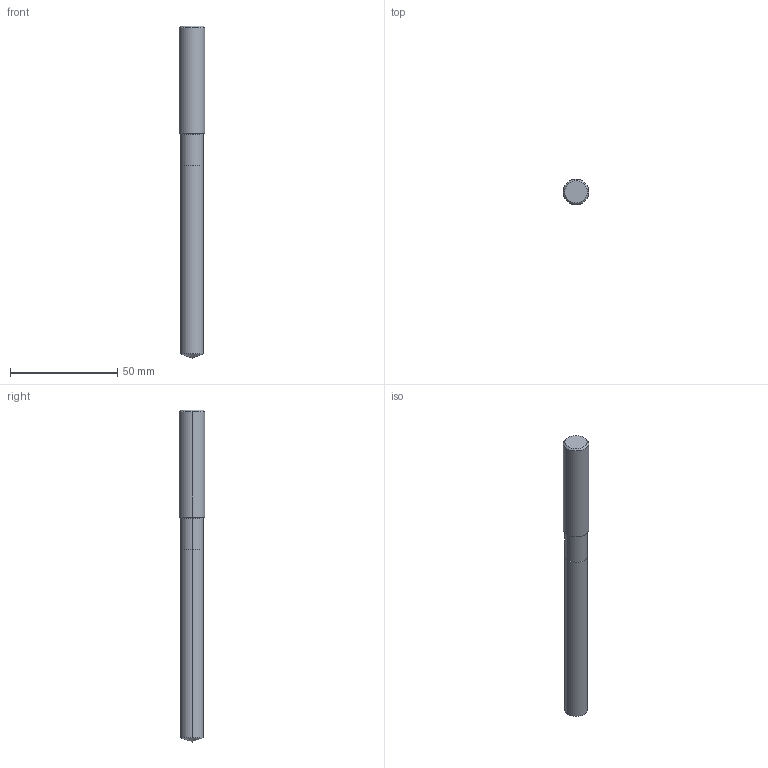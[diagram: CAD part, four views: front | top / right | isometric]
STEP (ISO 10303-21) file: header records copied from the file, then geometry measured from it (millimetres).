
FILE_DESCRIPTION(('STEP AP214'),'1');
FILE_NAME('cctmp_26681867-CF5C-4E50-8D06-0717FF4F856B_2020_11_02_13_41_10_0993..stp','2020-11-02T12:41:11',('Meusburger Georg GmbH & Co KG'),('CADClick - www.CADClick.com'),'Spatial InterOp 3D',' ','unknown authorization');
FILE_SCHEMA(('AUTOMOTIVE_DESIGN { 1 0 10303 214 1 1 1 1 }'));
Length unit declared in the file: millimetre
Products named in the file (1): WZB10223_10.6
Bounding box: 12 x 12 x 155 mm (x, y, z)
Volume: 14798.3 mm3; surface area: 5520.6 mm2
Topology: 1 solids, 1 shells, 14 faces, 28 edges, 15 vertices
Faces by surface type: cylinder 6, cone 6, plane 2
Entity records: 484 total; most frequent: DIRECTION 70, CARTESIAN_POINT 56, ORIENTED_EDGE 52, AXIS2_PLACEMENT_3D 29, EDGE_CURVE 26, STYLED_ITEM 15, PRESENTATION_STYLE_ASSIGNMENT 15, SURFACE_STYLE_USAGE 15
